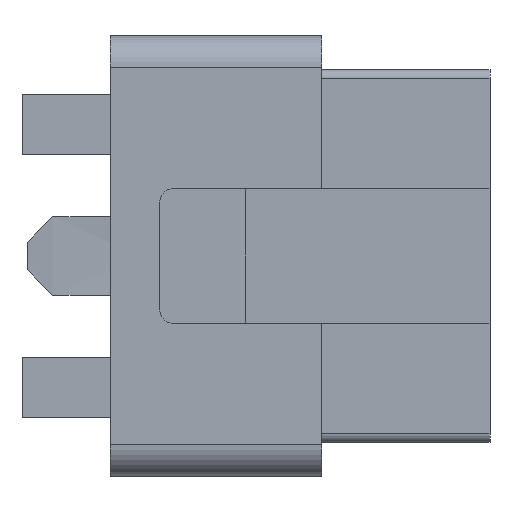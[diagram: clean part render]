
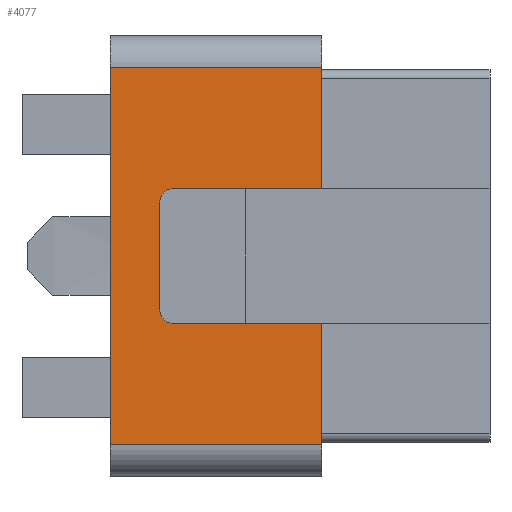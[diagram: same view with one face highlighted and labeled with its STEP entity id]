
A CAD part, front view. The second image highlights one B-rep face of the part: STEP entity #4077.
In plain terms, the highlighted planar face has unit normal (0, -1, 0).
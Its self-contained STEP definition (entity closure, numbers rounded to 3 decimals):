
#86 = ORIENTED_EDGE ( 'NONE', *, *, #2876, .F. ) ;
#104 = DIRECTION ( 'NONE',  ( -1., 0., 0. ) ) ;
#140 = VECTOR ( 'NONE', #335, 1000. ) ;
#158 = CARTESIAN_POINT ( 'NONE',  ( 4.7, 0., -1.5 ) ) ;
#166 = CARTESIAN_POINT ( 'NONE',  ( 1.4, 0., -1.2 ) ) ;
#304 = VECTOR ( 'NONE', #3454, 1000. ) ;
#323 = EDGE_CURVE ( 'NONE', #1382, #3852, #2718, .T. ) ;
#335 = DIRECTION ( 'NONE',  ( 0., 0., -1. ) ) ;
#349 = LINE ( 'NONE', #689, #3496 ) ;
#382 = VECTOR ( 'NONE', #1465, 1000. ) ;
#449 = CARTESIAN_POINT ( 'NONE',  ( 1.4, 0., 1.5 ) ) ;
#457 = DIRECTION ( 'NONE',  ( -1., 0., 0. ) ) ;
#503 = EDGE_CURVE ( 'NONE', #2586, #3179, #3367, .T. ) ;
#622 = CARTESIAN_POINT ( 'NONE',  ( 4.7, 0., 1.5 ) ) ;
#689 = CARTESIAN_POINT ( 'NONE',  ( 1.1, 0., -1.2 ) ) ;
#753 = CARTESIAN_POINT ( 'NONE',  ( 4.7, 0., -1.5 ) ) ;
#798 = DIRECTION ( 'NONE',  ( 0., 0., -1. ) ) ;
#923 = LINE ( 'NONE', #2470, #304 ) ;
#1012 = EDGE_CURVE ( 'NONE', #3852, #3174, #923, .T. ) ;
#1082 = ORIENTED_EDGE ( 'NONE', *, *, #4140, .F. ) ;
#1114 = EDGE_CURVE ( 'NONE', #2993, #3179, #4164, .T. ) ;
#1254 = DIRECTION ( 'NONE',  ( 0., 0., 1. ) ) ;
#1372 = ORIENTED_EDGE ( 'NONE', *, *, #1751, .T. ) ;
#1382 = VERTEX_POINT ( 'NONE', #2350 ) ;
#1465 = DIRECTION ( 'NONE',  ( -1., 0., 0. ) ) ;
#1601 = LINE ( 'NONE', #2281, #3705 ) ;
#1623 = ORIENTED_EDGE ( 'NONE', *, *, #3198, .T. ) ;
#1656 = CARTESIAN_POINT ( 'NONE',  ( 4.7, 0., 4.2 ) ) ;
#1660 = DIRECTION ( 'NONE',  ( -1., 0., 0. ) ) ;
#1675 = VERTEX_POINT ( 'NONE', #3935 ) ;
#1682 = EDGE_LOOP ( 'NONE', ( #4016, #1082, #2724, #1756, #1941, #86, #1372, #3956, #1623, #2006 ) ) ;
#1723 = AXIS2_PLACEMENT_3D ( 'NONE', #2872, #4143, #1254 ) ;
#1751 = EDGE_CURVE ( 'NONE', #1894, #3419, #2358, .T. ) ;
#1755 = CARTESIAN_POINT ( 'NONE',  ( 1.4, 0., -1.5 ) ) ;
#1756 = ORIENTED_EDGE ( 'NONE', *, *, #503, .T. ) ;
#1894 = VERTEX_POINT ( 'NONE', #158 ) ;
#1934 = VERTEX_POINT ( 'NONE', #3491 ) ;
#1941 = ORIENTED_EDGE ( 'NONE', *, *, #1114, .F. ) ;
#2006 = ORIENTED_EDGE ( 'NONE', *, *, #323, .T. ) ;
#2281 = CARTESIAN_POINT ( 'NONE',  ( 4.7, 0., -1.5 ) ) ;
#2337 = CARTESIAN_POINT ( 'NONE',  ( 0., 0., 4.2 ) ) ;
#2350 = CARTESIAN_POINT ( 'NONE',  ( 1.1, 0., 1.2 ) ) ;
#2358 = LINE ( 'NONE', #753, #2899 ) ;
#2380 = VECTOR ( 'NONE', #1660, 1000. ) ;
#2426 = DIRECTION ( 'NONE',  ( 0., 1., 0. ) ) ;
#2470 = CARTESIAN_POINT ( 'NONE',  ( 1.4, 0., 1.5 ) ) ;
#2518 = CIRCLE ( 'NONE', #3086, 0.3 ) ;
#2540 = CARTESIAN_POINT ( 'NONE',  ( 4.7, 0., -4.2 ) ) ;
#2586 = VERTEX_POINT ( 'NONE', #2337 ) ;
#2650 = DIRECTION ( 'NONE',  ( 0., 1., 0. ) ) ;
#2718 = CIRCLE ( 'NONE', #3343, 0.3 ) ;
#2722 = LINE ( 'NONE', #4028, #2380 ) ;
#2724 = ORIENTED_EDGE ( 'NONE', *, *, #3813, .T. ) ;
#2848 = FACE_OUTER_BOUND ( 'NONE', #1682, .T. ) ;
#2872 = CARTESIAN_POINT ( 'NONE',  ( 8.45, 0., 4.2 ) ) ;
#2876 = EDGE_CURVE ( 'NONE', #1894, #2993, #1601, .T. ) ;
#2899 = VECTOR ( 'NONE', #457, 1000. ) ;
#2908 = DIRECTION ( 'NONE',  ( 0., 0., -1. ) ) ;
#2975 = CARTESIAN_POINT ( 'NONE',  ( 0., 0., -4.2 ) ) ;
#2993 = VERTEX_POINT ( 'NONE', #3347 ) ;
#3086 = AXIS2_PLACEMENT_3D ( 'NONE', #166, #2426, #798 ) ;
#3174 = VERTEX_POINT ( 'NONE', #622 ) ;
#3179 = VERTEX_POINT ( 'NONE', #2975 ) ;
#3198 = EDGE_CURVE ( 'NONE', #1675, #1382, #349, .T. ) ;
#3255 = DIRECTION ( 'NONE',  ( 0., 0., 1. ) ) ;
#3343 = AXIS2_PLACEMENT_3D ( 'NONE', #3934, #2650, #104 ) ;
#3347 = CARTESIAN_POINT ( 'NONE',  ( 4.7, 0., -4.2 ) ) ;
#3367 = LINE ( 'NONE', #3825, #3548 ) ;
#3419 = VERTEX_POINT ( 'NONE', #1755 ) ;
#3454 = DIRECTION ( 'NONE',  ( 1., 0., 0. ) ) ;
#3491 = CARTESIAN_POINT ( 'NONE',  ( 4.7, 0., 4.2 ) ) ;
#3496 = VECTOR ( 'NONE', #3255, 1000. ) ;
#3547 = PLANE ( 'NONE',  #1723 ) ;
#3548 = VECTOR ( 'NONE', #3763, 1000. ) ;
#3633 = LINE ( 'NONE', #1656, #140 ) ;
#3705 = VECTOR ( 'NONE', #2908, 1000. ) ;
#3763 = DIRECTION ( 'NONE',  ( 0., 0., -1. ) ) ;
#3813 = EDGE_CURVE ( 'NONE', #1934, #2586, #2722, .T. ) ;
#3825 = CARTESIAN_POINT ( 'NONE',  ( 0., 0., 4.2 ) ) ;
#3852 = VERTEX_POINT ( 'NONE', #449 ) ;
#3934 = CARTESIAN_POINT ( 'NONE',  ( 1.4, 0., 1.2 ) ) ;
#3935 = CARTESIAN_POINT ( 'NONE',  ( 1.1, 0., -1.2 ) ) ;
#3956 = ORIENTED_EDGE ( 'NONE', *, *, #3971, .T. ) ;
#3971 = EDGE_CURVE ( 'NONE', #3419, #1675, #2518, .T. ) ;
#4016 = ORIENTED_EDGE ( 'NONE', *, *, #1012, .T. ) ;
#4028 = CARTESIAN_POINT ( 'NONE',  ( 4.7, 0., 4.2 ) ) ;
#4077 = ADVANCED_FACE ( 'NONE', ( #2848 ), #3547, .F. ) ;
#4140 = EDGE_CURVE ( 'NONE', #1934, #3174, #3633, .T. ) ;
#4143 = DIRECTION ( 'NONE',  ( 0., 1., 0. ) ) ;
#4164 = LINE ( 'NONE', #2540, #382 ) ;
